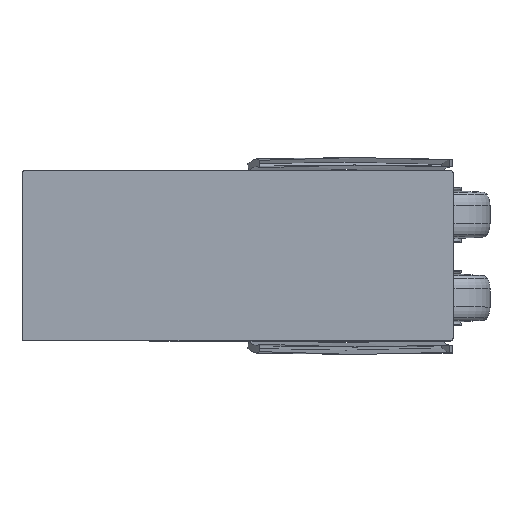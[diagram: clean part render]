
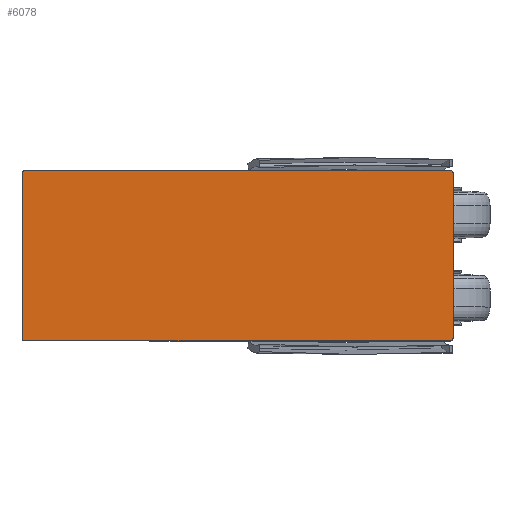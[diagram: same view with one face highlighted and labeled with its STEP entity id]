
A CAD part, top view. The second image highlights one B-rep face of the part: STEP entity #6078.
In plain terms, the highlighted planar face has unit normal (0, 0, 1).
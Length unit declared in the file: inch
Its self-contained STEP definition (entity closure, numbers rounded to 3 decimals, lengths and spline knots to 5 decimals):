
#6007=CARTESIAN_POINT('Axis2P3D Location',(256.5,0.,185.)) ;
#6012=CARTESIAN_POINT('Axis2P3D Location',(331.5,29.,185.)) ;
#6016=CARTESIAN_POINT('Vertex',(332.5,29.,185.)) ;
#6018=CARTESIAN_POINT('Vertex',(331.5,30.,185.)) ;
#6021=CARTESIAN_POINT('Line Origine',(256.5,30.,185.)) ;
#6025=CARTESIAN_POINT('Vertex',(181.5,30.,185.)) ;
#6028=CARTESIAN_POINT('Axis2P3D Location',(181.5,29.,185.)) ;
#6032=CARTESIAN_POINT('Vertex',(180.5,29.,185.)) ;
#6035=CARTESIAN_POINT('Line Origine',(180.5,0.,185.)) ;
#6039=CARTESIAN_POINT('Vertex',(180.5,-29.,185.)) ;
#6042=CARTESIAN_POINT('Axis2P3D Location',(181.5,-29.,185.)) ;
#6046=CARTESIAN_POINT('Vertex',(181.5,-30.,185.)) ;
#6049=CARTESIAN_POINT('Line Origine',(256.5,-30.,185.)) ;
#6053=CARTESIAN_POINT('Vertex',(331.5,-30.,185.)) ;
#6056=CARTESIAN_POINT('Axis2P3D Location',(331.5,-29.,185.)) ;
#6060=CARTESIAN_POINT('Vertex',(332.5,-29.,185.)) ;
#6063=CARTESIAN_POINT('Line Origine',(332.5,0.,185.)) ;
#6008=DIRECTION('Axis2P3D Direction',(0.,0.,1.)) ;
#6009=DIRECTION('Axis2P3D XDirection',(1.,0.,0.)) ;
#6013=DIRECTION('Axis2P3D Direction',(0.,0.,1.)) ;
#6022=DIRECTION('Vector Direction',(1.,0.,0.)) ;
#6029=DIRECTION('Axis2P3D Direction',(0.,0.,1.)) ;
#6036=DIRECTION('Vector Direction',(0.,-1.,0.)) ;
#6043=DIRECTION('Axis2P3D Direction',(0.,0.,1.)) ;
#6050=DIRECTION('Vector Direction',(1.,0.,0.)) ;
#6057=DIRECTION('Axis2P3D Direction',(0.,0.,1.)) ;
#6064=DIRECTION('Vector Direction',(0.,1.,0.)) ;
#6010=AXIS2_PLACEMENT_3D('Plane Axis2P3D',#6007,#6008,#6009) ;
#6014=AXIS2_PLACEMENT_3D('Circle Axis2P3D',#6012,#6013,$) ;
#6030=AXIS2_PLACEMENT_3D('Circle Axis2P3D',#6028,#6029,$) ;
#6044=AXIS2_PLACEMENT_3D('Circle Axis2P3D',#6042,#6043,$) ;
#6058=AXIS2_PLACEMENT_3D('Circle Axis2P3D',#6056,#6057,$) ;
#6069=ORIENTED_EDGE('',*,*,#6020,.T.) ;
#6070=ORIENTED_EDGE('',*,*,#6027,.F.) ;
#6071=ORIENTED_EDGE('',*,*,#6034,.T.) ;
#6072=ORIENTED_EDGE('',*,*,#6041,.T.) ;
#6073=ORIENTED_EDGE('',*,*,#6048,.T.) ;
#6074=ORIENTED_EDGE('',*,*,#6055,.T.) ;
#6075=ORIENTED_EDGE('',*,*,#6062,.T.) ;
#6076=ORIENTED_EDGE('',*,*,#6067,.T.) ;
#6023=VECTOR('Line Direction',#6022,0.03937) ;
#6037=VECTOR('Line Direction',#6036,0.03937) ;
#6051=VECTOR('Line Direction',#6050,0.03937) ;
#6065=VECTOR('Line Direction',#6064,0.03937) ;
#6078=ADVANCED_FACE('NLGR_CAVITY',(#6077),#6011,.T.) ;
#6015=CIRCLE('generated circle',#6014,1.) ;
#6031=CIRCLE('generated circle',#6030,1.) ;
#6045=CIRCLE('generated circle',#6044,1.) ;
#6059=CIRCLE('generated circle',#6058,1.) ;
#6020=EDGE_CURVE('',#6017,#6019,#6015,.T.) ;
#6027=EDGE_CURVE('',#6026,#6019,#6024,.T.) ;
#6034=EDGE_CURVE('',#6026,#6033,#6031,.T.) ;
#6041=EDGE_CURVE('',#6033,#6040,#6038,.T.) ;
#6048=EDGE_CURVE('',#6040,#6047,#6045,.T.) ;
#6055=EDGE_CURVE('',#6047,#6054,#6052,.T.) ;
#6062=EDGE_CURVE('',#6054,#6061,#6059,.T.) ;
#6067=EDGE_CURVE('',#6061,#6017,#6066,.T.) ;
#6068=EDGE_LOOP('',(#6069,#6070,#6071,#6072,#6073,#6074,#6075,#6076)) ;
#6077=FACE_OUTER_BOUND('',#6068,.T.) ;
#6024=LINE('Line',#6021,#6023) ;
#6038=LINE('Line',#6035,#6037) ;
#6052=LINE('Line',#6049,#6051) ;
#6066=LINE('Line',#6063,#6065) ;
#6011=PLANE('',#6010) ;
#6017=VERTEX_POINT('',#6016) ;
#6019=VERTEX_POINT('',#6018) ;
#6026=VERTEX_POINT('',#6025) ;
#6033=VERTEX_POINT('',#6032) ;
#6040=VERTEX_POINT('',#6039) ;
#6047=VERTEX_POINT('',#6046) ;
#6054=VERTEX_POINT('',#6053) ;
#6061=VERTEX_POINT('',#6060) ;
